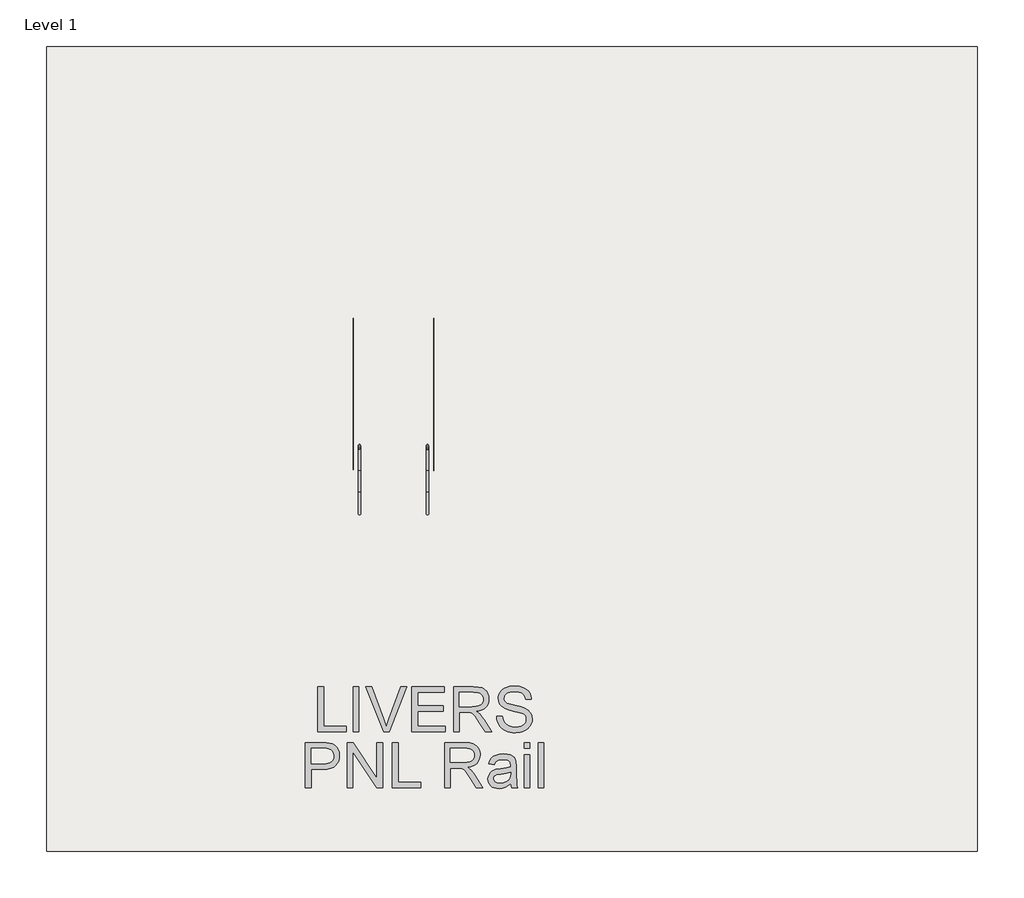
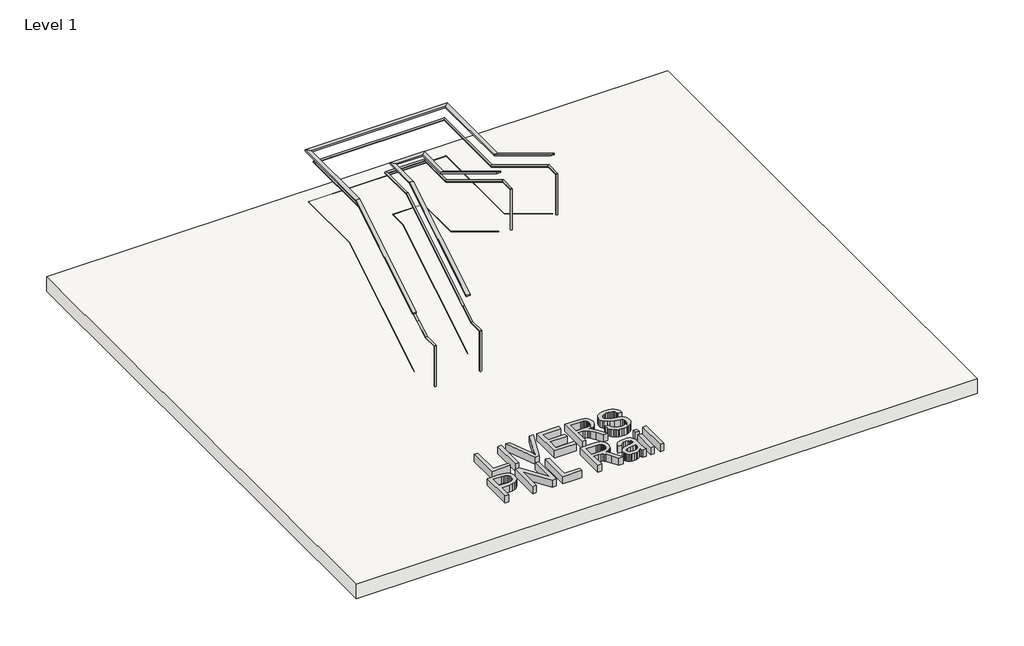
# One storey, incomplete: 2 railings, 1 proxy, 1 slab.
"""IFC4 building model written with IfcOpenShell, lengths in millimetres."""

from ifc_helpers import new_model, si_unit, frame, origin, origin_with_axes, place, context, project, spatial, polyline, circle_curve, ellipse_curve, outline, extrude, faceted_brep, element, save
from ifc_brep_helpers import plane_surface, cylinder_surface, advanced_brep

model = new_model("IFC4")

# Units and contexts
model_context = context("Model", 3, world=origin())
ifc_project = project(units=[si_unit("LENGTHUNIT", "METRE", prefix="MILLI")], contexts=[model_context])

# Site, building, storey
site = spatial("IfcSite", under=ifc_project)
building = spatial("IfcBuilding", under=site)
storey = spatial("IfcBuildingStorey", under=building, Name="Level 1", Elevation=0.0)

# Proxy
placement = place(None, origin())
element("IfcBuildingElementProxy", 1, Name="24\" Arial", ObjectType="24\" Arial", at=placement, inside=storey, context=model_context, shape_type="SweptSolid", body=[
    extrude(outline(polyline([(-9079.6421586, -2223.6418666), (-9079.6421586, -1623.4203281), (-9004.6144663, -1623.4203281), (-9004.6144663, -2148.6141743), (-8704.5036971, -2148.6141743), (-8704.5036971, -2223.6418666), (-9079.6421586, -2223.6418666)])), origin_with_axes(), (0.0, 0.0, 1.0), 152.4),
    extrude(outline(polyline([(-8610.7190817, -2223.6418666), (-8610.7190817, -1623.4203281), (-8535.6913894, -1623.4203281), (-8535.6913894, -2223.6418666), (-8610.7190817, -2223.6418666)])), origin_with_axes(), (0.0, 0.0, 1.0), 152.4),
    extrude(outline(polyline([(-8208.3244663, -2223.6418666), (-8447.1821586, -1623.4203281), (-8366.8790817, -1623.4203281), (-8207.0056201, -2055.8553281), (-8174.6206201, -2153.303405), (-8142.6752355, -2055.8553281), (-7982.3621586, -1623.4203281), (-7902.0590817, -1623.4203281), (-8130.8056201, -2223.6418666), (-8208.3244663, -2223.6418666)])), origin_with_axes(), (0.0, 0.0, 1.0), 152.4),
    extrude(outline(polyline([(-7832.306774, -2223.6418666), (-7832.306774, -1623.4203281), (-7400.8975432, -1623.4203281), (-7400.8975432, -1698.4480204), (-7757.2790817, -1698.4480204), (-7757.2790817, -1876.6387897), (-7419.6544663, -1876.6387897), (-7419.6544663, -1951.666482), (-7757.2790817, -1951.666482), (-7757.2790817, -2148.6141743), (-7391.5190817, -2148.6141743), (-7391.5190817, -2223.6418666), (-7832.306774, -2223.6418666)])), origin_with_axes(), (0.0, 0.0, 1.0), 152.4),
    extrude(outline(polyline([(-7278.9775432, -2223.6418666), (-7278.9775432, -1623.4203281), (-7020.3371586, -1623.4203281), (-6950.8229759, -1627.4684531), (-6900.2488894, -1639.6128281), (-6880.731798, -1649.2660493), (-6863.2845624, -1662.0332127), (-6847.9071826, -1677.9143185), (-6834.5996586, -1696.9093666), (-6823.861137, -1717.9971671), (-6816.1907644, -1740.15653), (-6811.5885408, -1763.3874555), (-6810.0544663, -1787.6899435), (-6812.5959927, -1818.5179724), (-6820.2205721, -1846.8182127), (-6832.9282043, -1872.5906647), (-6850.7188894, -1895.8353281), (-6873.8215937, -1915.8103522), (-6902.4652836, -1931.7738858), (-6936.6499591, -1943.7259291), (-6976.3756201, -1951.666482), (-6951.6472547, -1967.8223474), (-6933.7329278, -1983.758405), (-6902.9964855, -2020.2098474), (-6872.9194663, -2060.9841743), (-6772.8336971, -2223.6418666), (-6860.0240817, -2223.6418666), (-6938.1290817, -2099.2307127), (-6994.5463894, -2016.8760974), (-7015.5197067, -1992.862107), (-7034.1850432, -1977.9701358), (-7069.8671586, -1963.6826358), (-7113.3890817, -1961.0449435), (-7203.9498509, -1961.0449435), (-7203.9498509, -2223.6418666), (-7278.9775432, -2223.6418666)]), holes=[polyline([(-7203.9498509, -1886.0172512), (-7036.016774, -1886.0172512), (-6987.7873028, -1883.3612416), (-6950.3650432, -1875.3932127), (-6922.193024, -1861.5819627), (-6901.714274, -1841.3962897), (-6889.2401874, -1816.9793185), (-6885.0821586, -1790.4741743), (-6887.0650072, -1771.2867945), (-6893.0135528, -1753.8761935), (-6902.9277956, -1738.2423714), (-6916.8077355, -1724.3853281), (-6934.9739254, -1713.037756), (-6957.7469182, -1704.9323474), (-6985.1267139, -1700.0691022), (-7017.1133124, -1698.4480204), (-7203.9498509, -1698.4480204), (-7203.9498509, -1886.0172512)])]), origin_with_axes(), (0.0, 0.0, 1.0), 152.4),
    extrude(outline(polyline([(-6706.8913894, -2017.3157127), (-6631.8636971, -2017.3157127), (-6623.2545624, -2058.9509531), (-6607.6848509, -2092.4166743), (-6583.3961009, -2118.9767704), (-6548.6298509, -2139.8951358), (-6506.1336971, -2153.4682608), (-6458.6552355, -2157.9926358), (-6416.8551394, -2154.5672993), (-6380.2571586, -2144.2912897), (-6350.6014374, -2128.0255204), (-6329.6281201, -2106.630905), (-6317.1540336, -2082.0673954), (-6312.9960047, -2056.2949435), (-6316.1099471, -2031.1819147), (-6325.451774, -2009.475905), (-6344.4285047, -1990.957107), (-6376.4471586, -1975.4057127), (-6485.6915817, -1946.7574435), (-6557.4038413, -1927.79903), (-6603.2886971, -1909.756482), (-6640.6376874, -1884.515232), (-6667.1061971, -1853.9253281), (-6682.877399, -1818.6461935), (-6688.1344663, -1779.3372512), (-6686.5088052, -1756.9947151), (-6681.6318221, -1735.39403), (-6673.5035168, -1714.5351959), (-6662.1238894, -1694.4182127), (-6647.621161, -1675.86278), (-6630.1235528, -1659.6885974), (-6609.6310648, -1645.8956647), (-6586.1436971, -1634.483982), (-6533.3532163, -1619.1523954), (-6474.9210047, -1614.0418666), (-6411.6163894, -1619.3905204), (-6356.2248509, -1635.436482), (-6331.9910528, -1647.3885252), (-6310.7246586, -1661.8500397), (-6292.4256682, -1678.8210252), (-6277.0940817, -1698.301482), (-6264.8489615, -1719.7235733), (-6255.8093701, -1742.5194627), (-6249.9753076, -1766.6891502), (-6247.346774, -1792.2326358), (-6322.3744663, -1792.2326358), (-6327.3934086, -1768.2919147), (-6336.1490817, -1747.4651358), (-6348.6414855, -1729.7522993), (-6364.8706201, -1715.153405), (-6385.1387211, -1703.7417224), (-6409.748024, -1695.5905204), (-6438.6985288, -1690.6997993), (-6471.9902355, -1689.0695589), (-6506.3443461, -1690.681482), (-6535.6978317, -1695.5172512), (-6560.0506922, -1703.5768666), (-6579.4029278, -1714.8603281), (-6594.1483605, -1728.4242945), (-6604.6808124, -1743.3254243), (-6611.0002836, -1759.5637175), (-6613.106774, -1777.1391743), (-6611.6139134, -1792.2601118), (-6607.1353317, -1805.9706166), (-6599.6710288, -1818.2706887), (-6589.2210047, -1829.1603281), (-6572.7720624, -1839.4729724), (-6546.8713894, -1849.8955204), (-6466.7148509, -1871.0703281), (-6383.9938894, -1891.182732), (-6333.9510047, -1908.7307127), (-6291.1800913, -1935.950232), (-6274.6441418, -1951.9504002), (-6261.3411971, -1969.5441743), (-6251.11556, -1988.6399675), (-6243.8115336, -2009.1461935), (-6237.9683124, -2054.3899435), (-6239.6489254, -2077.858994), (-6244.6907644, -2100.6411454), (-6253.0938293, -2122.7363978), (-6264.8581201, -2144.1447512), (-6279.7775672, -2164.0373474), (-6297.6461009, -2181.5853281), (-6318.4637211, -2196.7886935), (-6342.2304278, -2209.6474435), (-6368.2547427, -2219.8730805), (-6395.8451874, -2227.177107), (-6455.7244663, -2233.0203281), (-6494.1038052, -2231.4450397), (-6529.2318221, -2226.7191743), (-6561.1085168, -2218.842732), (-6589.7338894, -2207.8157127), (-6615.2819543, -2193.6197993), (-6637.9267259, -2176.2366743), (-6657.6682043, -2155.6663377), (-6674.5063894, -2131.9087897), (-6688.0703557, -2105.733357), (-6697.9891778, -2077.9093666), (-6704.2628557, -2048.4368185), (-6706.8913894, -2017.3157127)])), origin_with_axes(), (0.0, 0.0, 1.0), 152.4),
    extrude(outline(polyline([(-9243.7652355, -2964.5403281), (-9243.7652355, -2364.3187897), (-9021.3198509, -2364.3187897), (-8969.5185047, -2365.7475397), (-8931.6383124, -2370.0337897), (-8891.6516297, -2380.71278), (-8858.7354278, -2398.095905), (-8832.2302836, -2422.9708089), (-8811.476774, -2456.1251358), (-8798.0685047, -2495.2325877), (-8793.5990817, -2537.9668666), (-8796.6168581, -2574.812131), (-8805.6701874, -2608.7083089), (-8820.7590697, -2639.6554002), (-8841.8835047, -2667.653405), (-8870.8843822, -2690.8614339), (-8909.6025913, -2707.4385974), (-8958.0381322, -2717.3848954), (-9016.1910047, -2720.7003281), (-9168.7375432, -2720.7003281), (-9168.7375432, -2964.5403281), (-9243.7652355, -2964.5403281)]), holes=[polyline([(-9168.7375432, -2645.6726358), (-9011.7948509, -2645.6726358), (-8975.7097547, -2643.9508089), (-8945.2663894, -2638.7853281), (-8920.4647547, -2630.1761935), (-8901.3048509, -2618.123405), (-8887.0081922, -2602.9475156), (-8876.7962932, -2584.9690781), (-8870.6691538, -2564.1880925), (-8868.626774, -2540.6045589), (-8873.4442259, -2506.9007127), (-8887.8965817, -2478.4722512), (-8910.1887451, -2457.0776358), (-8938.5256201, -2444.4753281), (-8967.4669663, -2440.6286935), (-9013.5533124, -2439.346482), (-9168.7375432, -2439.346482), (-9168.7375432, -2645.6726358)])]), origin_with_axes(), (0.0, 0.0, 1.0), 152.4),
    extrude(outline(polyline([(-8690.4360047, -2964.5403281), (-8690.4360047, -2364.3187897), (-8610.1329278, -2364.3187897), (-8296.5406201, -2839.8360974), (-8296.5406201, -2364.3187897), (-8221.5129278, -2364.3187897), (-8221.5129278, -2964.5403281), (-8301.8160047, -2964.5403281), (-8615.4083124, -2488.876482), (-8615.4083124, -2964.5403281), (-8690.4360047, -2964.5403281)])), origin_with_axes(), (0.0, 0.0, 1.0), 152.4),
    extrude(outline(polyline([(-8090.2144663, -2964.5403281), (-8090.2144663, -2364.3187897), (-8015.186774, -2364.3187897), (-8015.186774, -2889.5126358), (-7715.0760047, -2889.5126358), (-7715.0760047, -2964.5403281), (-8090.2144663, -2964.5403281)])), origin_with_axes(), (0.0, 0.0, 1.0), 152.4),
    extrude(outline(polyline([(-7396.2083124, -2964.5403281), (-7396.2083124, -2364.3187897), (-7137.5679278, -2364.3187897), (-7068.0537451, -2368.3669147), (-7017.4796586, -2380.5112897), (-6997.9625672, -2390.1645108), (-6980.5153317, -2402.9316743), (-6965.1379519, -2418.81278), (-6951.8304278, -2437.8078281), (-6941.0919062, -2458.8956286), (-6933.4215336, -2481.0549916), (-6928.81931, -2504.2859171), (-6927.2852355, -2528.588405), (-6929.826762, -2559.4164339), (-6937.4513413, -2587.7166743), (-6950.1589735, -2613.4891262), (-6967.9496586, -2636.7337897), (-6991.0523629, -2656.7088137), (-7019.6960528, -2672.6723474), (-7053.8807283, -2684.6243906), (-7093.6063894, -2692.5649435), (-7068.878024, -2708.7208089), (-7050.9636971, -2724.6568666), (-7020.2272547, -2761.1083089), (-6990.1502355, -2801.8826358), (-6890.0644663, -2964.5403281), (-6977.2548509, -2964.5403281), (-7055.3598509, -2840.1291743), (-7111.7771586, -2757.7745589), (-7132.7504759, -2733.7605685), (-7151.4158124, -2718.8685974), (-7187.0979278, -2704.5810974), (-7230.6198509, -2701.943405), (-7321.1806201, -2701.943405), (-7321.1806201, -2964.5403281), (-7396.2083124, -2964.5403281)]), holes=[polyline([(-7321.1806201, -2626.9157127), (-7153.2475432, -2626.9157127), (-7105.0180721, -2624.2597031), (-7067.5958124, -2616.2916743), (-7039.4237932, -2602.4804243), (-7018.9450432, -2582.2947512), (-7006.4709567, -2557.87778), (-7002.3129278, -2531.3726358), (-7004.2957764, -2512.185256), (-7010.2443221, -2494.774655), (-7020.1585648, -2479.1408329), (-7034.0385047, -2465.2837897), (-7052.2046947, -2453.9362175), (-7074.9776874, -2445.8308089), (-7102.3574831, -2440.9675637), (-7134.3440817, -2439.346482), (-7321.1806201, -2439.346482), (-7321.1806201, -2626.9157127)])]), origin_with_axes(), (0.0, 0.0, 1.0), 152.4),
    extrude(outline(polyline([(-6524.0113894, -2908.2695589), (-6559.8583605, -2939.0060012), (-6596.7677355, -2959.118405), (-6635.5821105, -2970.2186935), (-6677.1440817, -2973.9187897), (-6710.5502716, -2971.6932368), (-6739.8442259, -2965.0165781), (-6765.0259447, -2953.8888137), (-6786.0954278, -2938.3099435), (-6802.7321225, -2919.2691022), (-6814.6154759, -2897.7554243), (-6821.7454879, -2873.7689099), (-6824.1221586, -2847.3095589), (-6820.5319663, -2816.2067704), (-6809.7613894, -2787.961482), (-6793.1475913, -2763.7826358), (-6772.0277355, -2744.8791743), (-6747.2077836, -2730.5916743), (-6719.4936971, -2720.2607127), (-6654.5771586, -2708.9772512), (-6577.864274, -2697.1076358), (-6524.4510047, -2683.186482), (-6524.0113894, -2666.4810974), (-6529.1768701, -2632.9970589), (-6535.6337211, -2620.5962416), (-6544.6733124, -2611.0895589), (-6560.2979759, -2601.6011935), (-6579.3296586, -2594.8237897), (-6627.6140817, -2589.4018666), (-6672.3083124, -2593.0103762), (-6703.5210047, -2603.835905), (-6724.8057163, -2623.8567224), (-6739.7160047, -2655.0510974), (-6814.7436971, -2645.6726358), (-6801.7200913, -2604.6418666), (-6782.2854278, -2572.403405), (-6754.6262932, -2547.7483089), (-6716.929274, -2529.4676358), (-6670.8246105, -2518.1475397), (-6617.9425432, -2514.3741743), (-6567.2219182, -2517.7079243), (-6527.0154278, -2527.7091743), (-6496.7002836, -2542.7476839), (-6475.6536971, -2561.1932127), (-6461.6959086, -2583.9982608), (-6452.6471586, -2612.1153281), (-6448.9836971, -2677.7645589), (-6448.9836971, -2771.1095589), (-6445.1736971, -2901.4555204), (-6439.5319663, -2933.6756647), (-6430.226774, -2964.5403281), (-6505.2544663, -2964.5403281), (-6517.2706201, -2938.456482), (-6524.0113894, -2908.2695589)]), holes=[polyline([(-6524.0113894, -2758.2141743), (-6574.4206201, -2770.7065781), (-6645.0521586, -2781.2207127), (-6709.6023509, -2793.383405), (-6726.3993221, -2801.6994627), (-6738.836774, -2813.1660974), (-6746.5300432, -2826.9040781), (-6749.0944663, -2842.0341743), (-6743.5076874, -2864.344655), (-6726.7473509, -2882.6253281), (-6699.1798028, -2894.824655), (-6661.1713894, -2898.8910974), (-6620.8733124, -2894.403357), (-6585.2644663, -2880.9401358), (-6556.3963894, -2861.1024916), (-6536.3206201, -2837.491482), (-6527.4184086, -2813.1660974), (-6524.4510047, -2779.4622512), (-6524.0113894, -2758.2141743)])]), origin_with_axes(), (0.0, 0.0, 1.0), 152.4),
    extrude(outline(polyline([(-6345.8206201, -2439.346482), (-6345.8206201, -2364.3187897), (-6270.7929278, -2364.3187897), (-6270.7929278, -2439.346482), (-6345.8206201, -2439.346482)])), origin_with_axes(), (0.0, 0.0, 1.0), 152.4),
    extrude(outline(polyline([(-6345.8206201, -2964.5403281), (-6345.8206201, -2523.7526358), (-6270.7929278, -2523.7526358), (-6270.7929278, -2964.5403281), (-6345.8206201, -2964.5403281)])), origin_with_axes(), (0.0, 0.0, 1.0), 152.4),
    extrude(outline(polyline([(-6158.2513894, -2964.5403281), (-6158.2513894, -2364.3187897), (-6083.2236971, -2364.3187897), (-6083.2236971, -2964.5403281), (-6158.2513894, -2964.5403281)])), origin_with_axes(), (0.0, 0.0, 1.0), 152.4),
])

# Railings
element("IfcRailing", 2, ObjectType="LIVERS_PNL - Panel #18", at=placement, inside=storey, context=model_context, shape_type="SolidModel", body=[
    advanced_brep(
    [(-8508.8399174, 674.9061053, 0.0), (-8546.9399174, 674.9061053, 0.0), (-8508.8399174, 674.9061053, 844.55), (-8546.9399174, 674.9061053, 844.55), (-8508.8399174, 965.9782588, 844.55), (-8546.9399174, 965.9782588, 844.55), (-8508.8399174, 1249.929753, 1016.6418146), (-8546.9399174, 1249.929753, 1016.6418146), (-8508.8399174, 3201.1782588, 2199.2166667), (-8546.9399174, 3201.1782588, 2199.2166667), (-8508.8399174, 4798.4847591, 2199.2166667), (-8546.9399174, 4836.5847591, 2199.2166667), (-5968.8399174, 4798.4847591, 2199.2166667), (-5930.7399174, 4836.5847591, 2199.2166667), (-5968.8399174, 3190.5339518, 2199.2166667), (-5930.7399174, 3190.5339518, 2199.2166667), (-5968.8399174, 1234.7339518, 3384.55), (-5930.7399174, 1234.7339518, 3384.55), (-5968.8399174, 954.3061053, 3384.55), (-5930.7399174, 954.3061053, 3384.55), (-5968.8399174, 954.3061053, 2540.0), (-5930.7399174, 954.3061053, 2540.0)],
    [
        (0, 1, circle_curve(frame((-8527.8899174, 674.9061053, 0.0), z_axis=(0.0, 0.0, -1.0), x_axis=(-1.0, 0.0, 0.0)), 19.05)),
        (1, 0, circle_curve(frame((-8527.8899174, 674.9061053, 0.0), z_axis=(0.0, 0.0, -1.0), x_axis=(-1.0, 0.0, 0.0)), 19.05)),
        (0, 2),
        (2, 3, ellipse_curve(frame((-8527.8899174, 674.9061053, 844.55), z_axis=(0.0, -0.7071067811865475, -0.7071067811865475), x_axis=(0.0, 0.7071067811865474, -0.7071067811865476)), 26.9407684, 19.05)),
        (3, 1),
        (3, 2, ellipse_curve(frame((-8527.8899174, 674.9061053, 844.55), z_axis=(0.0, -0.7071067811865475, -0.7071067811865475), x_axis=(0.0, 0.7071067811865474, -0.7071067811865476)), 26.9407684, 19.05)),
        (2, 4),
        (4, 5, ellipse_curve(frame((-8527.8899174, 965.9782588, 844.55), z_axis=(0.0, -0.9631193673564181, -0.269074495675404), x_axis=(0.0, -0.26907449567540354, 0.9631193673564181)), 19.7794797, 19.05)),
        (5, 3),
        (5, 4, ellipse_curve(frame((-8527.8899174, 965.9782588, 844.55), z_axis=(0.0, -0.9631193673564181, -0.269074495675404), x_axis=(0.0, -0.26907449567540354, 0.9631193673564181)), 19.7794797, 19.05)),
        (4, 6),
        (6, 7, circle_curve(frame((-8527.8899174, 1249.929753, 1016.6418146), z_axis=(0.0, -0.855197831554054, -0.5183017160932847), x_axis=(-1.0, 0.0, 0.0)), 19.05)),
        (7, 5),
        (7, 6, circle_curve(frame((-8527.8899174, 1249.929753, 1016.6418146), z_axis=(0.0, -0.855197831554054, -0.5183017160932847), x_axis=(-1.0, 0.0, 0.0)), 19.05)),
        (6, 8),
        (8, 9, ellipse_curve(frame((-8527.8899174, 3201.1782588, 2199.2166667), z_axis=(0.0, -0.9631193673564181, -0.26907449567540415), x_axis=(0.0, 0.26907449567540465, -0.9631193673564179)), 19.7794797, 19.05)),
        (9, 7),
        (9, 8, ellipse_curve(frame((-8527.8899174, 3201.1782588, 2199.2166667), z_axis=(0.0, -0.9631193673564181, -0.26907449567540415), x_axis=(0.0, 0.26907449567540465, -0.9631193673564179)), 19.7794797, 19.05)),
        (8, 10),
        (10, 11, ellipse_curve(frame((-8527.8899174, 4817.5347591, 2199.2166667), z_axis=(-0.7071067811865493, -0.7071067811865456, 0.0), x_axis=(0.7071067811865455, -0.7071067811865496, 0.0)), 26.9407684, 19.05)),
        (11, 9),
        (11, 10, ellipse_curve(frame((-8527.8899174, 4817.5347591, 2199.2166667), z_axis=(-0.7071067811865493, -0.7071067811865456, 0.0), x_axis=(0.7071067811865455, -0.7071067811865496, 0.0)), 26.9407684, 19.05)),
        (10, 12),
        (12, 13, ellipse_curve(frame((-5949.7899174, 4817.5347591, 2199.2166667), z_axis=(-0.7071067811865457, 0.7071067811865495, 0.0), x_axis=(-0.7071067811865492, -0.7071067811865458, 0.0)), 26.9407684, 19.05)),
        (13, 11),
        (13, 12, ellipse_curve(frame((-5949.7899174, 4817.5347591, 2199.2166667), z_axis=(-0.7071067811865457, 0.7071067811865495, 0.0), x_axis=(-0.7071067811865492, -0.7071067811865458, 0.0)), 26.9407684, 19.05)),
        (12, 14),
        (14, 15, ellipse_curve(frame((-5949.7899174, 3190.5339518, 2199.2166667), z_axis=(0.0, 0.9631193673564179, -0.2690744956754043), x_axis=(0.0, 0.26907449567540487, 0.9631193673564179)), 19.7794797, 19.05)),
        (15, 13),
        (15, 14, ellipse_curve(frame((-5949.7899174, 3190.5339518, 2199.2166667), z_axis=(0.0, 0.9631193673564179, -0.2690744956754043), x_axis=(0.0, 0.26907449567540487, 0.9631193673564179)), 19.7794797, 19.05)),
        (14, 16),
        (16, 17, ellipse_curve(frame((-5949.7899174, 1234.7339518, 3384.55), z_axis=(0.0, 0.9631193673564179, -0.2690744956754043), x_axis=(0.0, -0.26907449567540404, -0.9631193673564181)), 19.7794797, 19.05)),
        (17, 15),
        (17, 16, ellipse_curve(frame((-5949.7899174, 1234.7339518, 3384.55), z_axis=(0.0, 0.9631193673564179, -0.2690744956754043), x_axis=(0.0, -0.26907449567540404, -0.9631193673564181)), 19.7794797, 19.05)),
        (16, 18),
        (18, 19, ellipse_curve(frame((-5949.7899174, 954.3061053, 3384.55), z_axis=(0.0, 0.7071067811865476, 0.7071067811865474), x_axis=(0.0, 0.7071067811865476, -0.7071067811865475)), 26.9407684, 19.05)),
        (19, 17),
        (19, 18, ellipse_curve(frame((-5949.7899174, 954.3061053, 3384.55), z_axis=(0.0, 0.7071067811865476, 0.7071067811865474), x_axis=(0.0, 0.7071067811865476, -0.7071067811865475)), 26.9407684, 19.05)),
        (20, 21, circle_curve(frame((-5949.7899174, 954.3061053, 2540.0), z_axis=(0.0, 0.0, -1.0), x_axis=(1.0, 0.0, 0.0)), 19.05)),
        (21, 20, circle_curve(frame((-5949.7899174, 954.3061053, 2540.0), z_axis=(0.0, 0.0, -1.0), x_axis=(1.0, 0.0, 0.0)), 19.05)),
        (18, 20),
        (21, 19),
    ],
    [
        plane_surface(frame((-8527.8899174, 617.7561053, 0.0), z_axis=(0.0, 0.0, -1.0), x_axis=(1.0, 0.0, 0.0))),
        cylinder_surface(frame((-8527.8899174, 674.9061053, 0.0), z_axis=(0.0, 0.0, -1.0), x_axis=(-1.0, 0.0, 0.0)), 19.05),
        cylinder_surface(frame((-8527.8899174, 655.8561053, 844.55), z_axis=(0.0, -1.0, 0.0), x_axis=(-1.0, 0.0, 0.0)), 19.05),
        cylinder_surface(frame((-8527.8899174, 970.529753, 847.3084813), z_axis=(0.0, -0.855197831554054, -0.5183017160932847), x_axis=(-1.0, 0.0, 0.0)), 19.05),
        cylinder_surface(frame((-8527.8899174, 1249.929753, 1016.6418146), z_axis=(0.0, -0.8551978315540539, -0.5183017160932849), x_axis=(-1.0, 0.0, 0.0)), 19.05),
        cylinder_surface(frame((-8527.8899174, 3195.8561053, 2199.2166667), z_axis=(0.0, -1.0, 0.0), x_axis=(-1.0, 0.0, 0.0)), 19.05),
        cylinder_surface(frame((-8527.8899174, 4817.5347591, 2199.2166667), z_axis=(-1.0, 0.0, 0.0), x_axis=(0.0, 1.0, 0.0)), 19.05),
        cylinder_surface(frame((-5949.7899174, 4817.5347591, 2199.2166667), z_axis=(0.0, 1.0, 0.0), x_axis=(1.0, 0.0, 0.0)), 19.05),
        cylinder_surface(frame((-5949.7899174, 3185.9824576, 2201.975148), z_axis=(0.0, 0.8551978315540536, -0.5183017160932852), x_axis=(1.0, 0.0, 0.0)), 19.05),
        cylinder_surface(frame((-5949.7899174, 1240.0561053, 3384.55), z_axis=(0.0, 1.0, 0.0), x_axis=(1.0, 0.0, 0.0)), 19.05),
        plane_surface(frame((-5949.7899174, 897.1561053, 2540.0), z_axis=(0.0, 0.0, -1.0), x_axis=(-1.0, 0.0, 0.0))),
        cylinder_surface(frame((-5949.7899174, 954.3061053, 3403.6), z_axis=(0.0, 0.0, 1.0), x_axis=(1.0, 0.0, 0.0)), 19.05),
    ],
    [
        (0, [[1, 2]]),
        (1, [[-1, 3, 4, 5]]),
        (1, [[-2, -5, 6, -3]]),
        (2, [[-4, 7, 8, 9]]),
        (2, [[-6, -9, 10, -7]]),
        (3, [[-8, 11, 12, 13]]),
        (3, [[-10, -13, 14, -11]]),
        (4, [[-12, 15, 16, 17]]),
        (4, [[-14, -17, 18, -15]]),
        (5, [[-16, 19, 20, 21]]),
        (5, [[-18, -21, 22, -19]]),
        (6, [[-20, 23, 24, 25]]),
        (6, [[-22, -25, 26, -23]]),
        (7, [[-24, 27, 28, 29]]),
        (7, [[-26, -29, 30, -27]]),
        (8, [[-28, 31, 32, 33]]),
        (8, [[-30, -33, 34, -31]]),
        (9, [[-32, 35, 36, 37]]),
        (9, [[-34, -37, 38, -35]]),
        (10, [[39, 40]]),
        (11, [[-36, 41, -40, 42]]),
        (11, [[-38, -42, -39, -41]]),
    ],
),
    advanced_brep(
    [(-8609.2115724, 1240.0561053, -22.5851124), (-8611.6682624, 1240.0561053, -22.5851124), (-8609.2115724, 3493.5592905, 1343.1743938), (-8611.6682624, 3493.5592905, 1343.1743938), (-8609.2115724, 4898.8564141, 1343.1743938), (-8611.6682624, 4901.3131041, 1343.1743938), (-5868.4682624, 4898.8564141, 1343.1743938), (-5866.0115724, 4901.3131041, 1343.1743938), (-5868.4682624, 2898.1529201, 1343.1743938), (-5866.0115724, 2898.1529201, 1343.1743938), (-5868.4682624, 1240.0561053, 2348.0815543), (-5866.0115724, 1240.0561053, 2348.0815543)],
    [
        (0, 1, ellipse_curve(frame((-8610.4399174, 1240.0561053, -22.5851124), z_axis=(0.0, -1.0, 0.0), x_axis=(0.0, 0.0, -1.0)), 1.4363285, 1.228345)),
        (1, 0, ellipse_curve(frame((-8610.4399174, 1240.0561053, -22.5851124), z_axis=(0.0, -1.0, 0.0), x_axis=(0.0, 0.0, -1.0)), 1.4363285, 1.228345)),
        (0, 2),
        (2, 3, ellipse_curve(frame((-8610.4399174, 3493.5592905, 1343.1743938), z_axis=(0.0, -0.963119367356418, -0.26907449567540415), x_axis=(0.0, 0.2690744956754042, -0.963119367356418)), 1.2753819, 1.228345)),
        (3, 1),
        (3, 2, ellipse_curve(frame((-8610.4399174, 3493.5592905, 1343.1743938), z_axis=(0.0, -0.963119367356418, -0.26907449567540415), x_axis=(0.0, 0.2690744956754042, -0.963119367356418)), 1.2753819, 1.228345)),
        (2, 4),
        (4, 5, ellipse_curve(frame((-8610.4399174, 4900.0847591, 1343.1743938), z_axis=(-0.7071067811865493, -0.7071067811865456, 0.0), x_axis=(0.7071067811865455, -0.7071067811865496, 0.0)), 1.7371421, 1.228345)),
        (5, 3),
        (5, 4, ellipse_curve(frame((-8610.4399174, 4900.0847591, 1343.1743938), z_axis=(-0.7071067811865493, -0.7071067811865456, 0.0), x_axis=(0.7071067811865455, -0.7071067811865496, 0.0)), 1.7371421, 1.228345)),
        (4, 6),
        (6, 7, ellipse_curve(frame((-5867.2399174, 4900.0847591, 1343.1743938), z_axis=(-0.7071067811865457, 0.7071067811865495, 0.0), x_axis=(-0.7071067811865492, -0.7071067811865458, 0.0)), 1.7371421, 1.228345)),
        (7, 5),
        (7, 6, ellipse_curve(frame((-5867.2399174, 4900.0847591, 1343.1743938), z_axis=(-0.7071067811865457, 0.7071067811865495, 0.0), x_axis=(-0.7071067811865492, -0.7071067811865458, 0.0)), 1.7371421, 1.228345)),
        (6, 8),
        (8, 9, ellipse_curve(frame((-5867.2399174, 2898.1529201, 1343.1743938), z_axis=(0.0, 0.9631193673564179, -0.2690744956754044), x_axis=(0.0, 0.2690744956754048, 0.9631193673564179)), 1.2753819, 1.228345)),
        (9, 7),
        (9, 8, ellipse_curve(frame((-5867.2399174, 2898.1529201, 1343.1743938), z_axis=(0.0, 0.9631193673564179, -0.2690744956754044), x_axis=(0.0, 0.2690744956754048, 0.9631193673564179)), 1.2753819, 1.228345)),
        (10, 11, ellipse_curve(frame((-5867.2399174, 1240.0561053, 2348.0815543), z_axis=(0.0, -1.0, 0.0), x_axis=(0.0, 0.0, -1.0)), 1.4363285, 1.228345)),
        (11, 10, ellipse_curve(frame((-5867.2399174, 1240.0561053, 2348.0815543), z_axis=(0.0, -1.0, 0.0), x_axis=(0.0, 0.0, -1.0)), 1.4363285, 1.228345)),
        (8, 10),
        (11, 9),
    ],
    [
        plane_surface(frame((-8610.4399174, 1240.0561053, 1223.4333333), z_axis=(0.0, -1.0, 0.0), x_axis=(0.0, 0.0, 1.0))),
        cylinder_surface(frame((-8610.4399174, 1792.354409, 312.1411323), z_axis=(0.0, -0.8551978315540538, -0.5183017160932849), x_axis=(-1.0, 0.0, 0.0)), 1.228345),
        cylinder_surface(frame((-8610.4399174, 3195.8561053, 1343.1743938), z_axis=(0.0, -1.0, 0.0), x_axis=(-1.0, 0.0, 0.0)), 1.228345),
        cylinder_surface(frame((-8610.4399174, 4900.0847591, 1343.1743938), z_axis=(-1.0, 0.0, 0.0), x_axis=(0.0, 1.0, 0.0)), 1.228345),
        cylinder_surface(frame((-5867.2399174, 4900.0847591, 1343.1743938), z_axis=(0.0, 1.0, 0.0), x_axis=(1.0, 0.0, 0.0)), 1.228345),
        plane_surface(frame((-5867.2399174, 1240.0561053, 3594.1), z_axis=(0.0, -1.0, 0.0), x_axis=(0.0, 0.0, -1.0))),
        cylinder_surface(frame((-5867.2399174, 2643.5578016, 1497.4744656), z_axis=(0.0, 0.8551978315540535, -0.5183017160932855), x_axis=(1.0, 0.0, 0.0)), 1.228345),
    ],
    [
        (0, [[1, 2]]),
        (1, [[-1, 3, 4, 5]]),
        (1, [[-2, -5, 6, -3]]),
        (2, [[-4, 7, 8, 9]]),
        (2, [[-6, -9, 10, -7]]),
        (3, [[-8, 11, 12, 13]]),
        (3, [[-10, -13, 14, -11]]),
        (4, [[-12, 15, 16, 17]]),
        (4, [[-14, -17, 18, -15]]),
        (5, [[19, 20]]),
        (6, [[-16, 21, -20, 22]]),
        (6, [[-18, -22, -19, -21]]),
    ],
),
    faceted_brep([(-8648.5399174, 1240.0561053, 1236.1333333), (-8648.5399174, 1240.0561053, 1206.4326032), (-8572.3399174, 1240.0561053, 1206.4326032), (-8572.3399174, 1240.0561053, 1236.1333333), (-8648.5399174, 3195.8561053, 2421.4666667), (-8648.5399174, 3202.95231, 2396.0666667), (-8572.3399174, 3202.95231, 2396.0666667), (-8572.3399174, 3195.8561053, 2421.4666667), (-8648.5399174, 4938.1847591, 2421.4666667), (-8648.5399174, 4938.1847591, 2396.0666667), (-8572.3399174, 4861.9847591, 2396.0666667), (-8572.3399174, 4861.9847591, 2421.4666667), (-5829.1399174, 4938.1847591, 2421.4666667), (-5829.1399174, 4938.1847591, 2396.0666667), (-5905.3399174, 4861.9847591, 2396.0666667), (-5905.3399174, 4861.9847591, 2421.4666667), (-5829.1399174, 3195.8561053, 2421.4666667), (-5829.1399174, 3188.7599006, 2396.0666667), (-5905.3399174, 3188.7599006, 2396.0666667), (-5905.3399174, 3195.8561053, 2421.4666667), (-5829.1399174, 1240.0561053, 3606.8), (-5905.3399174, 1240.0561053, 3606.8), (-5905.3399174, 1240.0561053, 3577.0992699), (-5829.1399174, 1240.0561053, 3577.0992699)], [[[0, 1, 2, 3]], [[1, 0, 4, 5]], [[2, 1, 5, 6]], [[3, 2, 6, 7]], [[0, 3, 7, 4]], [[5, 4, 8, 9]], [[6, 5, 9, 10]], [[7, 6, 10, 11]], [[4, 7, 11, 8]], [[9, 8, 12, 13]], [[10, 9, 13, 14]], [[11, 10, 14, 15]], [[8, 11, 15, 12]], [[13, 12, 16, 17]], [[14, 13, 17, 18]], [[15, 14, 18, 19]], [[12, 15, 19, 16]], [[20, 21, 22, 23]], [[17, 16, 20, 23]], [[18, 17, 23, 22]], [[19, 18, 22, 21]], [[16, 19, 21, 20]]]),
])
element("IfcRailing", 3, ObjectType="LIVERS_PNL - Panel #18", at=placement, inside=storey, context=model_context, shape_type="SolidModel", body=[
    advanced_brep(
    [(-7607.1399174, 674.9061053, 0.0), (-7645.2399174, 674.9061053, 0.0), (-7607.1399174, 674.9061053, 844.55), (-7645.2399174, 674.9061053, 844.55), (-7607.1399174, 965.9782588, 844.55), (-7645.2399174, 965.9782588, 844.55), (-7607.1399174, 1249.929753, 1016.6418146), (-7645.2399174, 1249.929753, 1016.6418146), (-7607.1399174, 3201.1782588, 2199.2166667), (-7645.2399174, 3201.1782588, 2199.2166667), (-7607.1399174, 3903.1347591, 2199.2166667), (-7645.2399174, 3941.2347591, 2199.2166667), (-6870.5399174, 3903.1347591, 2199.2166667), (-6832.4399174, 3941.2347591, 2199.2166667), (-6870.5399174, 3190.5339518, 2199.2166667), (-6832.4399174, 3190.5339518, 2199.2166667), (-6870.5399174, 1234.7339518, 3384.55), (-6832.4399174, 1234.7339518, 3384.55), (-6870.5399174, 954.3061053, 3384.55), (-6832.4399174, 954.3061053, 3384.55), (-6870.5399174, 954.3061053, 2540.0), (-6832.4399174, 954.3061053, 2540.0)],
    [
        (0, 1, circle_curve(frame((-7626.1899174, 674.9061053, 0.0), z_axis=(0.0, 0.0, -1.0), x_axis=(-1.0, 0.0, 0.0)), 19.05)),
        (1, 0, circle_curve(frame((-7626.1899174, 674.9061053, 0.0), z_axis=(0.0, 0.0, -1.0), x_axis=(-1.0, 0.0, 0.0)), 19.05)),
        (0, 2),
        (2, 3, ellipse_curve(frame((-7626.1899174, 674.9061053, 844.55), z_axis=(0.0, -0.7071067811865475, -0.7071067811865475), x_axis=(0.0, 0.7071067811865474, -0.7071067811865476)), 26.9407684, 19.05)),
        (3, 1),
        (3, 2, ellipse_curve(frame((-7626.1899174, 674.9061053, 844.55), z_axis=(0.0, -0.7071067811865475, -0.7071067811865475), x_axis=(0.0, 0.7071067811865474, -0.7071067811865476)), 26.9407684, 19.05)),
        (2, 4),
        (4, 5, ellipse_curve(frame((-7626.1899174, 965.9782588, 844.55), z_axis=(0.0, -0.9631193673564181, -0.269074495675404), x_axis=(0.0, -0.26907449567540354, 0.9631193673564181)), 19.7794797, 19.05)),
        (5, 3),
        (5, 4, ellipse_curve(frame((-7626.1899174, 965.9782588, 844.55), z_axis=(0.0, -0.9631193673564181, -0.269074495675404), x_axis=(0.0, -0.26907449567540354, 0.9631193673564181)), 19.7794797, 19.05)),
        (4, 6),
        (6, 7, circle_curve(frame((-7626.1899174, 1249.929753, 1016.6418146), z_axis=(0.0, -0.855197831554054, -0.5183017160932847), x_axis=(-1.0, 0.0, 0.0)), 19.05)),
        (7, 5),
        (7, 6, circle_curve(frame((-7626.1899174, 1249.929753, 1016.6418146), z_axis=(0.0, -0.855197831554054, -0.5183017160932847), x_axis=(-1.0, 0.0, 0.0)), 19.05)),
        (6, 8),
        (8, 9, ellipse_curve(frame((-7626.1899174, 3201.1782588, 2199.2166667), z_axis=(0.0, -0.9631193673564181, -0.26907449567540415), x_axis=(0.0, 0.2690744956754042, -0.9631193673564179)), 19.7794797, 19.05)),
        (9, 7),
        (9, 8, ellipse_curve(frame((-7626.1899174, 3201.1782588, 2199.2166667), z_axis=(0.0, -0.9631193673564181, -0.26907449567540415), x_axis=(0.0, 0.2690744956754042, -0.9631193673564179)), 19.7794797, 19.05)),
        (8, 10),
        (10, 11, ellipse_curve(frame((-7626.1899174, 3922.1847591, 2199.2166667), z_axis=(-0.7071067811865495, -0.7071067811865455, 0.0), x_axis=(0.7071067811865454, -0.7071067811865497, 0.0)), 26.9407684, 19.05)),
        (11, 9),
        (11, 10, ellipse_curve(frame((-7626.1899174, 3922.1847591, 2199.2166667), z_axis=(-0.7071067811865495, -0.7071067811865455, 0.0), x_axis=(0.7071067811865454, -0.7071067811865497, 0.0)), 26.9407684, 19.05)),
        (10, 12),
        (12, 13, ellipse_curve(frame((-6851.4899174, 3922.1847591, 2199.2166667), z_axis=(-0.707106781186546, 0.7071067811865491, 0.0), x_axis=(-0.707106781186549, -0.707106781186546, 0.0)), 26.9407684, 19.05)),
        (13, 11),
        (13, 12, ellipse_curve(frame((-6851.4899174, 3922.1847591, 2199.2166667), z_axis=(-0.707106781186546, 0.7071067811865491, 0.0), x_axis=(-0.707106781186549, -0.707106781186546, 0.0)), 26.9407684, 19.05)),
        (12, 14),
        (14, 15, ellipse_curve(frame((-6851.4899174, 3190.5339518, 2199.2166667), z_axis=(0.0, 0.9631193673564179, -0.26907449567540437), x_axis=(0.0, 0.2690744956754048, 0.9631193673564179)), 19.7794797, 19.05)),
        (15, 13),
        (15, 14, ellipse_curve(frame((-6851.4899174, 3190.5339518, 2199.2166667), z_axis=(0.0, 0.9631193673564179, -0.26907449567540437), x_axis=(0.0, 0.2690744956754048, 0.9631193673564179)), 19.7794797, 19.05)),
        (14, 16),
        (16, 17, ellipse_curve(frame((-6851.4899174, 1234.7339518, 3384.55), z_axis=(0.0, 0.9631193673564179, -0.26907449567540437), x_axis=(0.0, -0.26907449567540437, -0.963119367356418)), 19.7794797, 19.05)),
        (17, 15),
        (17, 16, ellipse_curve(frame((-6851.4899174, 1234.7339518, 3384.55), z_axis=(0.0, 0.9631193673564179, -0.26907449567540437), x_axis=(0.0, -0.26907449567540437, -0.963119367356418)), 19.7794797, 19.05)),
        (16, 18),
        (18, 19, ellipse_curve(frame((-6851.4899174, 954.3061053, 3384.55), z_axis=(0.0, 0.7071067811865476, 0.7071067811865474), x_axis=(0.0, 0.7071067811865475, -0.7071067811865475)), 26.9407684, 19.05)),
        (19, 17),
        (19, 18, ellipse_curve(frame((-6851.4899174, 954.3061053, 3384.55), z_axis=(0.0, 0.7071067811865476, 0.7071067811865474), x_axis=(0.0, 0.7071067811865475, -0.7071067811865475)), 26.9407684, 19.05)),
        (20, 21, circle_curve(frame((-6851.4899174, 954.3061053, 2540.0), z_axis=(0.0, 0.0, -1.0), x_axis=(1.0, 0.0, 0.0)), 19.05)),
        (21, 20, circle_curve(frame((-6851.4899174, 954.3061053, 2540.0), z_axis=(0.0, 0.0, -1.0), x_axis=(1.0, 0.0, 0.0)), 19.05)),
        (18, 20),
        (21, 19),
    ],
    [
        plane_surface(frame((-7626.1899174, 617.7561053, 0.0), z_axis=(0.0, 0.0, -1.0), x_axis=(1.0, 0.0, 0.0))),
        cylinder_surface(frame((-7626.1899174, 674.9061053, 0.0), z_axis=(0.0, 0.0, -1.0), x_axis=(-1.0, 0.0, 0.0)), 19.05),
        cylinder_surface(frame((-7626.1899174, 655.8561053, 844.55), z_axis=(0.0, -1.0, 0.0), x_axis=(-1.0, 0.0, 0.0)), 19.05),
        cylinder_surface(frame((-7626.1899174, 970.529753, 847.3084813), z_axis=(0.0, -0.855197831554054, -0.5183017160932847), x_axis=(-1.0, 0.0, 0.0)), 19.05),
        cylinder_surface(frame((-7626.1899174, 1249.929753, 1016.6418146), z_axis=(0.0, -0.855197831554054, -0.5183017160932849), x_axis=(-1.0, 0.0, 0.0)), 19.05),
        cylinder_surface(frame((-7626.1899174, 3195.8561053, 2199.2166667), z_axis=(0.0, -1.0, 0.0), x_axis=(-1.0, 0.0, 0.0)), 19.05),
        cylinder_surface(frame((-7626.1899174, 3922.1847591, 2199.2166667), z_axis=(-1.0, 0.0, 0.0), x_axis=(0.0, 1.0, 0.0)), 19.05),
        cylinder_surface(frame((-6851.4899174, 3922.1847591, 2199.2166667), z_axis=(0.0, 1.0, 0.0), x_axis=(1.0, 0.0, 0.0)), 19.05),
        cylinder_surface(frame((-6851.4899174, 3185.9824576, 2201.975148), z_axis=(0.0, 0.8551978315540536, -0.5183017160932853), x_axis=(1.0, 0.0, 0.0)), 19.05),
        cylinder_surface(frame((-6851.4899174, 1240.0561053, 3384.55), z_axis=(0.0, 1.0, 0.0), x_axis=(1.0, 0.0, 0.0)), 19.05),
        plane_surface(frame((-6851.4899174, 897.1561053, 2540.0), z_axis=(0.0, 0.0, -1.0), x_axis=(-1.0, 0.0, 0.0))),
        cylinder_surface(frame((-6851.4899174, 954.3061053, 3403.6), z_axis=(0.0, 0.0, 1.0), x_axis=(1.0, 0.0, 0.0)), 19.05),
    ],
    [
        (0, [[1, 2]]),
        (1, [[-1, 3, 4, 5]]),
        (1, [[-2, -5, 6, -3]]),
        (2, [[-4, 7, 8, 9]]),
        (2, [[-6, -9, 10, -7]]),
        (3, [[-8, 11, 12, 13]]),
        (3, [[-10, -13, 14, -11]]),
        (4, [[-12, 15, 16, 17]]),
        (4, [[-14, -17, 18, -15]]),
        (5, [[-16, 19, 20, 21]]),
        (5, [[-18, -21, 22, -19]]),
        (6, [[-20, 23, 24, 25]]),
        (6, [[-22, -25, 26, -23]]),
        (7, [[-24, 27, 28, 29]]),
        (7, [[-26, -29, 30, -27]]),
        (8, [[-28, 31, 32, 33]]),
        (8, [[-30, -33, 34, -31]]),
        (9, [[-32, 35, 36, 37]]),
        (9, [[-34, -37, 38, -35]]),
        (10, [[39, 40]]),
        (11, [[-36, 41, -40, 42]]),
        (11, [[-38, -42, -39, -41]]),
    ],
),
    advanced_brep(
    [(-7542.4115724, 1240.0561053, -22.5851124), (-7544.8682624, 1240.0561053, -22.5851124), (-7542.4115724, 3493.5592905, 1343.1743938), (-7544.8682624, 3493.5592905, 1343.1743938), (-7542.4115724, 3838.4064141, 1343.1743938), (-7544.8682624, 3840.8631041, 1343.1743938), (-6935.2682624, 3838.4064141, 1343.1743938), (-6932.8115724, 3840.8631041, 1343.1743938), (-6935.2682624, 2898.1529201, 1343.1743938), (-6932.8115724, 2898.1529201, 1343.1743938), (-6935.2682624, 1240.0561053, 2348.0815543), (-6932.8115724, 1240.0561053, 2348.0815543)],
    [
        (0, 1, ellipse_curve(frame((-7543.6399174, 1240.0561053, -22.5851124), z_axis=(0.0, -1.0, 0.0), x_axis=(0.0, 0.0, -1.0)), 1.4363285, 1.228345)),
        (1, 0, ellipse_curve(frame((-7543.6399174, 1240.0561053, -22.5851124), z_axis=(0.0, -1.0, 0.0), x_axis=(0.0, 0.0, -1.0)), 1.4363285, 1.228345)),
        (0, 2),
        (2, 3, ellipse_curve(frame((-7543.6399174, 3493.5592905, 1343.1743938), z_axis=(0.0, -0.9631193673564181, -0.26907449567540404), x_axis=(0.0, 0.2690744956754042, -0.963119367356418)), 1.2753819, 1.228345)),
        (3, 1),
        (3, 2, ellipse_curve(frame((-7543.6399174, 3493.5592905, 1343.1743938), z_axis=(0.0, -0.9631193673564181, -0.26907449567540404), x_axis=(0.0, 0.2690744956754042, -0.963119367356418)), 1.2753819, 1.228345)),
        (2, 4),
        (4, 5, ellipse_curve(frame((-7543.6399174, 3839.6347591, 1343.1743938), z_axis=(-0.7071067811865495, -0.7071067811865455, 0.0), x_axis=(0.7071067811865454, -0.7071067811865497, 0.0)), 1.7371421, 1.228345)),
        (5, 3),
        (5, 4, ellipse_curve(frame((-7543.6399174, 3839.6347591, 1343.1743938), z_axis=(-0.7071067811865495, -0.7071067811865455, 0.0), x_axis=(0.7071067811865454, -0.7071067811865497, 0.0)), 1.7371421, 1.228345)),
        (4, 6),
        (6, 7, ellipse_curve(frame((-6934.0399174, 3839.6347591, 1343.1743938), z_axis=(-0.707106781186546, 0.7071067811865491, 0.0), x_axis=(-0.707106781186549, -0.707106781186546, 0.0)), 1.7371421, 1.228345)),
        (7, 5),
        (7, 6, ellipse_curve(frame((-6934.0399174, 3839.6347591, 1343.1743938), z_axis=(-0.707106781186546, 0.7071067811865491, 0.0), x_axis=(-0.707106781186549, -0.707106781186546, 0.0)), 1.7371421, 1.228345)),
        (6, 8),
        (8, 9, ellipse_curve(frame((-6934.0399174, 2898.1529201, 1343.1743938), z_axis=(0.0, 0.9631193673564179, -0.26907449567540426), x_axis=(0.0, 0.2690744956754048, 0.9631193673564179)), 1.2753819, 1.228345)),
        (9, 7),
        (9, 8, ellipse_curve(frame((-6934.0399174, 2898.1529201, 1343.1743938), z_axis=(0.0, 0.9631193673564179, -0.26907449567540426), x_axis=(0.0, 0.2690744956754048, 0.9631193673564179)), 1.2753819, 1.228345)),
        (10, 11, ellipse_curve(frame((-6934.0399174, 1240.0561053, 2348.0815543), z_axis=(0.0, -1.0, 0.0), x_axis=(0.0, 0.0, -1.0)), 1.4363285, 1.228345)),
        (11, 10, ellipse_curve(frame((-6934.0399174, 1240.0561053, 2348.0815543), z_axis=(0.0, -1.0, 0.0), x_axis=(0.0, 0.0, -1.0)), 1.4363285, 1.228345)),
        (8, 10),
        (11, 9),
    ],
    [
        plane_surface(frame((-7543.6399174, 1240.0561053, 1223.4333333), z_axis=(0.0, -1.0, 0.0), x_axis=(0.0, 0.0, 1.0))),
        cylinder_surface(frame((-7543.6399174, 1792.354409, 312.1411323), z_axis=(0.0, -0.8551978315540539, -0.5183017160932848), x_axis=(-1.0, 0.0, 0.0)), 1.228345),
        cylinder_surface(frame((-7543.6399174, 3195.8561053, 1343.1743938), z_axis=(0.0, -1.0, 0.0), x_axis=(-1.0, 0.0, 0.0)), 1.228345),
        cylinder_surface(frame((-7543.6399174, 3839.6347591, 1343.1743938), z_axis=(-1.0, 0.0, 0.0), x_axis=(0.0, 1.0, 0.0)), 1.228345),
        cylinder_surface(frame((-6934.0399174, 3839.6347591, 1343.1743938), z_axis=(0.0, 1.0, 0.0), x_axis=(1.0, 0.0, 0.0)), 1.228345),
        plane_surface(frame((-6934.0399174, 1240.0561053, 3594.1), z_axis=(0.0, -1.0, 0.0), x_axis=(0.0, 0.0, -1.0))),
        cylinder_surface(frame((-6934.0399174, 2643.5578016, 1497.4744656), z_axis=(0.0, 0.8551978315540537, -0.5183017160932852), x_axis=(1.0, 0.0, 0.0)), 1.228345),
    ],
    [
        (0, [[1, 2]]),
        (1, [[-1, 3, 4, 5]]),
        (1, [[-2, -5, 6, -3]]),
        (2, [[-4, 7, 8, 9]]),
        (2, [[-6, -9, 10, -7]]),
        (3, [[-8, 11, 12, 13]]),
        (3, [[-10, -13, 14, -11]]),
        (4, [[-12, 15, 16, 17]]),
        (4, [[-14, -17, 18, -15]]),
        (5, [[19, 20]]),
        (6, [[-16, 21, -20, 22]]),
        (6, [[-18, -22, -19, -21]]),
    ],
),
    faceted_brep([(-7581.7399174, 1240.0561053, 1236.1333333), (-7581.7399174, 1240.0561053, 1206.4326032), (-7505.5399174, 1240.0561053, 1206.4326032), (-7505.5399174, 1240.0561053, 1236.1333333), (-7581.7399174, 3195.8561053, 2421.4666667), (-7581.7399174, 3202.95231, 2396.0666667), (-7505.5399174, 3202.95231, 2396.0666667), (-7505.5399174, 3195.8561053, 2421.4666667), (-7581.7399174, 3877.7347591, 2421.4666667), (-7581.7399174, 3877.7347591, 2396.0666667), (-7505.5399174, 3801.5347591, 2396.0666667), (-7505.5399174, 3801.5347591, 2421.4666667), (-6895.9399174, 3877.7347591, 2421.4666667), (-6895.9399174, 3877.7347591, 2396.0666667), (-6972.1399174, 3801.5347591, 2396.0666667), (-6972.1399174, 3801.5347591, 2421.4666667), (-6895.9399174, 3195.8561053, 2421.4666667), (-6895.9399174, 3188.7599006, 2396.0666667), (-6972.1399174, 3188.7599006, 2396.0666667), (-6972.1399174, 3195.8561053, 2421.4666667), (-6895.9399174, 1240.0561053, 3606.8), (-6972.1399174, 1240.0561053, 3606.8), (-6972.1399174, 1240.0561053, 3577.0992699), (-6895.9399174, 1240.0561053, 3577.0992699)], [[[0, 1, 2, 3]], [[1, 0, 4, 5]], [[2, 1, 5, 6]], [[3, 2, 6, 7]], [[0, 3, 7, 4]], [[5, 4, 8, 9]], [[6, 5, 9, 10]], [[7, 6, 10, 11]], [[4, 7, 11, 8]], [[9, 8, 12, 13]], [[10, 9, 13, 14]], [[11, 10, 14, 15]], [[8, 11, 15, 12]], [[13, 12, 16, 17]], [[14, 13, 17, 18]], [[15, 14, 18, 19]], [[12, 15, 19, 16]], [[20, 21, 22, 23]], [[17, 16, 20, 23]], [[18, 17, 23, 22]], [[19, 18, 22, 21]], [[16, 19, 21, 20]]]),
])

# Slab
element("IfcSlab", 4, ObjectType="Generic - 12\"", at=placement, inside=storey, context=model_context, shape_type="SweptSolid", body=[
    extrude(outline(polyline([(-332.8267211, 6865.8331413), (-332.8267211, -3802.1668587), (-12677.2267211, -3802.1668587), (-12677.2267211, 6865.8331413), (-332.8267211, 6865.8331413)])), frame((0.0, 0.0, -304.8), z_axis=(0.0, 0.0, 1.0), x_axis=(1.0, 0.0, 0.0)), (0.0, 0.0, 1.0), 304.8),
])

save(model, "model.ifc")
